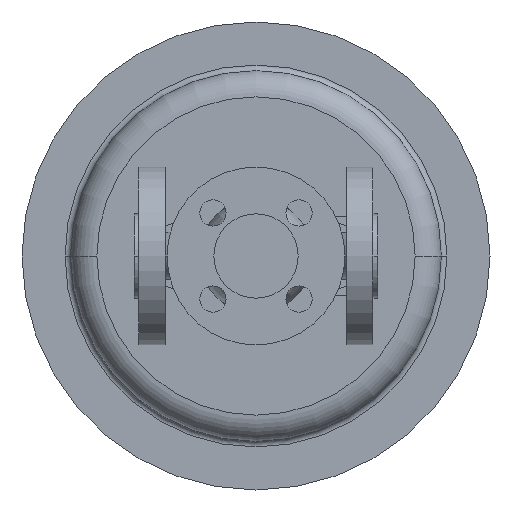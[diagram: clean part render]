
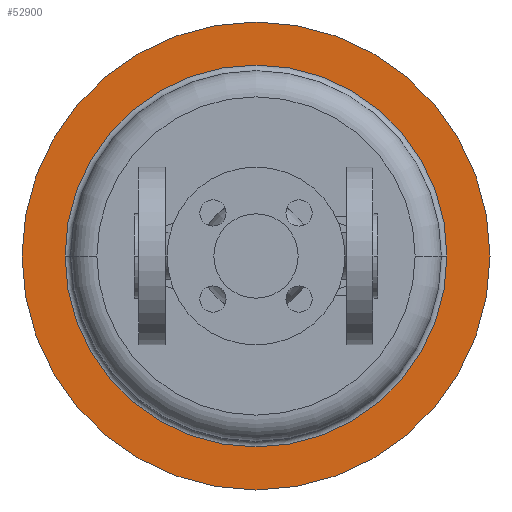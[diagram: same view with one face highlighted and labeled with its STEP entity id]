
A CAD part, front view. The second image highlights one B-rep face of the part: STEP entity #52900.
In plain terms, the highlighted planar face has unit normal (0, -1, 0).
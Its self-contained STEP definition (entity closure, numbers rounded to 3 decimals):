
#38010=CARTESIAN_POINT('',(190.,383.,0.));
#38020=VERTEX_POINT('',#38010);
#38050=CARTESIAN_POINT('',(65.,383.,0.));
#38060=DIRECTION('',(0.,1.,0.));
#38070=DIRECTION('',(1.,0.,0.));
#38080=AXIS2_PLACEMENT_3D('',#38050,#38060,#38070);
#38090=CIRCLE('',#38080,125.);
#38100=CARTESIAN_POINT('',(-60.,383.,0.));
#38110=VERTEX_POINT('',#38100);
#38120=EDGE_CURVE('',#38110,#38020,#38090,.T.);
#38370=CARTESIAN_POINT('',(65.,383.,0.));
#38380=DIRECTION('',(0.,1.,0.));
#38390=DIRECTION('',(1.,0.,0.));
#38400=AXIS2_PLACEMENT_3D('',#38370,#38380,#38390);
#38410=CIRCLE('',#38400,102.);
#38420=CARTESIAN_POINT('',(65.,383.,-102.));
#38430=VERTEX_POINT('',#38420);
#38440=CARTESIAN_POINT('',(-37.,383.,0.));
#38450=VERTEX_POINT('',#38440);
#38460=EDGE_CURVE('',#38430,#38450,#38410,.T.);
#38710=CARTESIAN_POINT('',(167.,383.,0.));
#38720=VERTEX_POINT('',#38710);
#38750=EDGE_CURVE('',#38720,#38430,#38410,.T.);
#52740=CARTESIAN_POINT('',(178.5,383.,0.));
#52750=DIRECTION('',(0.,-1.,0.));
#52760=DIRECTION('',(-1.,0.,0.));
#52770=AXIS2_PLACEMENT_3D('',#52740,#52750,#52760);
#52780=PLANE('',#52770);
#52790=ORIENTED_EDGE('',*,*,#38120,.F.);
#52800=EDGE_CURVE('',#38020,#38110,#38090,.T.);
#52810=ORIENTED_EDGE('',*,*,#52800,.F.);
#52820=EDGE_LOOP('',(#52810,#52790));
#52830=FACE_OUTER_BOUND('',#52820,.T.);
#52840=EDGE_CURVE('',#38450,#38720,#38410,.T.);
#52850=ORIENTED_EDGE('',*,*,#52840,.T.);
#52860=ORIENTED_EDGE('',*,*,#38460,.T.);
#52870=ORIENTED_EDGE('',*,*,#38750,.T.);
#52880=EDGE_LOOP('',(#52870,#52860,#52850));
#52890=FACE_BOUND('',#52880,.T.);
#52900=ADVANCED_FACE('',(#52830,#52890),#52780,.T.);
